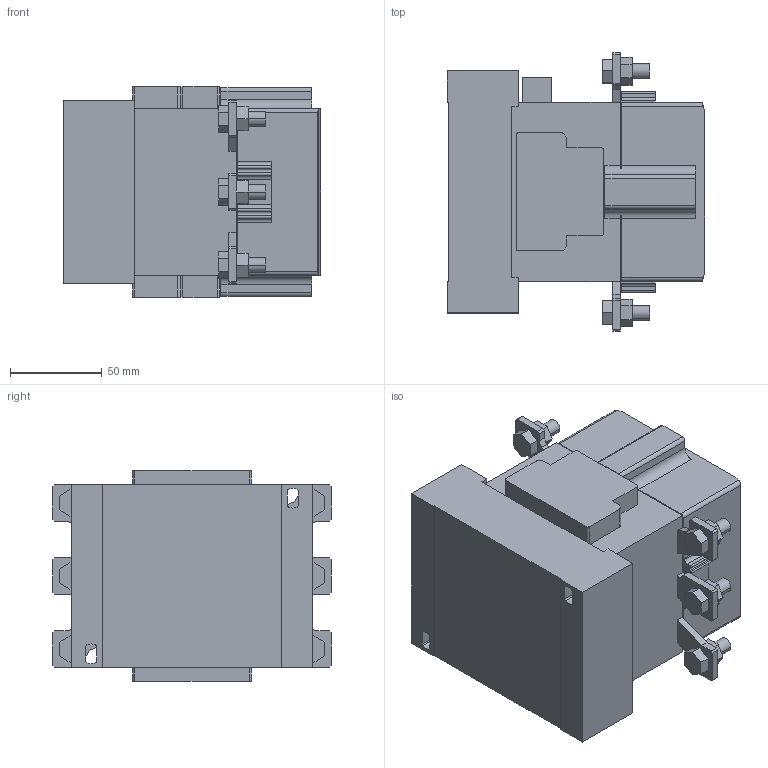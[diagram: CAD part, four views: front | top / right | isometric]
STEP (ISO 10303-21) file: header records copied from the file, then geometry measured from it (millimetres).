
FILE_DESCRIPTION( ( '' ), '1' );
FILE_NAME( 'E:/D&C電子外形図_3D/step/distribution/new_sc_neo_sc/mag/SC-N7.stp', '2013-02-13T02:53:09', ( '' ), ( '' ), ' ', ' ', ' ' );
FILE_SCHEMA( ( 'automotive_design' ) );
Length unit declared in the file: millimetre
Products named in the file (20): 1; 2; 3; 4; 5; 6; 7; 8; 9; 10; 11; 12; 13; 14; 15; 16; 17; 18; 19; 20
Bounding box: 140.5 x 152 x 115 mm (x, y, z)
Volume: 1509992.5 mm3; surface area: 134092.1 mm2
Topology: 20 solids, 20 shells, 386 faces, 1004 edges, 668 vertices
Faces by surface type: plane 284, cylinder 102
Entity records: 23749 total; most frequent: CARTESIAN_POINT 2106, STYLED_ITEM 2078, PRESENTATION_STYLE_ASSIGNMENT 2078, COLOUR_RGB 2078, DIRECTION 2012, ORIENTED_EDGE 2008, EDGE_CURVE 1004, CURVE_STYLE 1004
